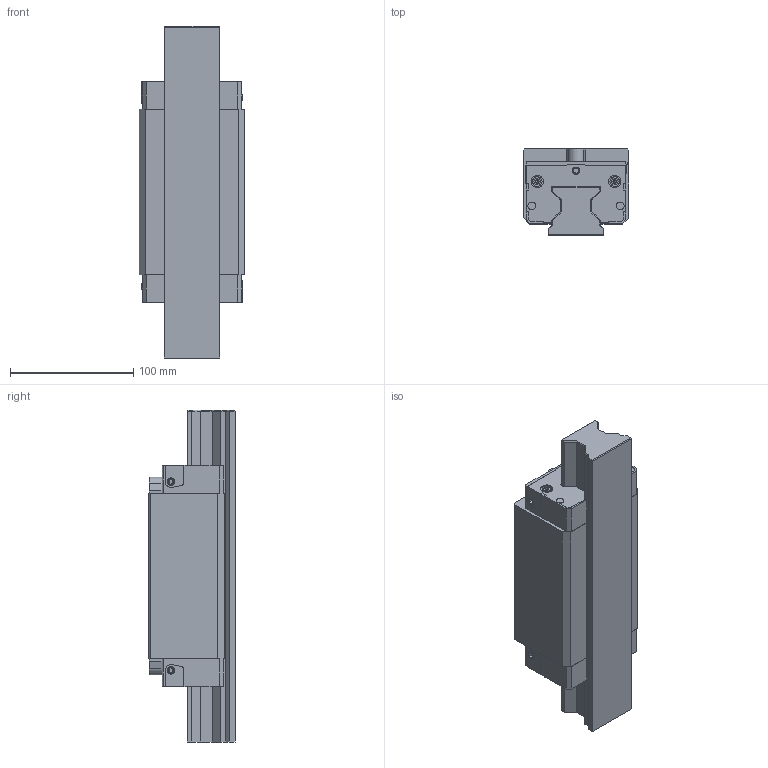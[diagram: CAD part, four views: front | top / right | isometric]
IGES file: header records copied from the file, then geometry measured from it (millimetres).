
Start section: 3D InterOp IGES (v. 2019 1.0.2), Spatial Corp. Copyright (c) 1999-2017.
Global section: file name: R1824_size45.igs; native system: Spatial Corp.; preprocessor: 3D InterOp GENERIC/IGES 3.0; author: Noname; organization: Noname; date: 20220630.112909; units: millimetre
Bounding box: 86 x 70 x 269.5 mm (x, y, z)
Surface area: 163897.7 mm2 (no closed solid volume)
Topology: 0 solids, 0 shells, 530 faces, 2752 edges, 2720 vertices
Faces by surface type: extrusion 326, revolution 204
